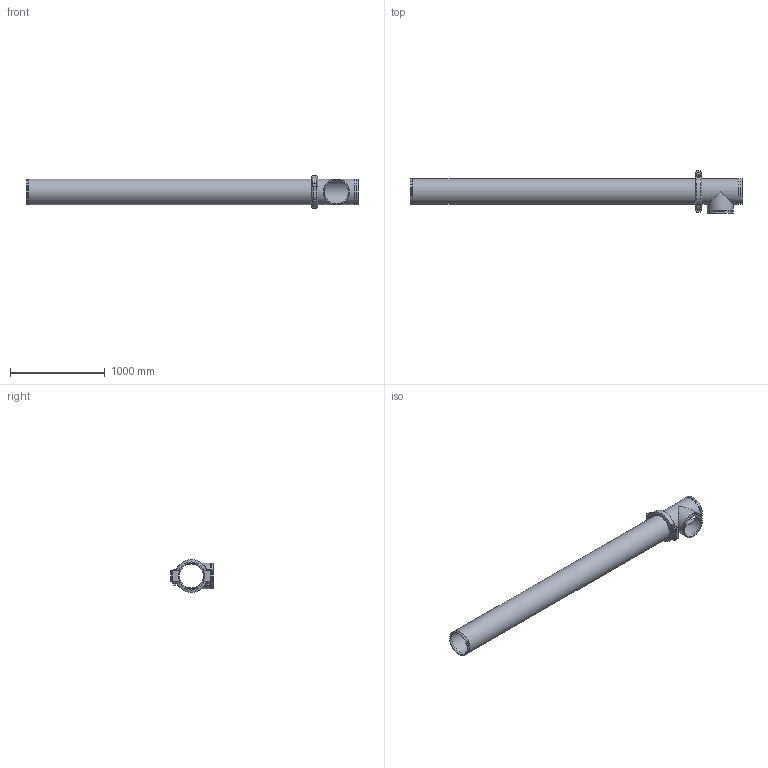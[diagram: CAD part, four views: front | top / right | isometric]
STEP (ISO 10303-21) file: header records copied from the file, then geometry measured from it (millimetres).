
FILE_DESCRIPTION(/* description */ ('VIC LONG RUN FITTING No R25 (OGS)','CAx-IF Rec.Pracs.---Representation and Presentation of Product Manufacturing Information (PMI)---4.0---2014-10-13'),/* implementation_level */ '2;1');
FILE_NAME(/* name */ 'C:\Users\Vjadhav\AppData\Roaming\Autodesk\ApplicationPlugins\Back Up\Victaulic_IPS_Long Run Fittings_No R25 (OGS)\Victaulic_IPS_Long Run Fittings_No R25 (OGS)_10 (250).stp',/* time_stamp */ '2020-10-14T10:39:11+05:00',/* author */ ('Vjadhav'),/* organization */ ('Victaulic'),/* preprocessor_version */ 'ST-DEVELOPER v17.2',/* originating_system */ 'Autodesk Inventor 2019',/* authorisation */ '');
FILE_SCHEMA (('AP242_MANAGED_MODEL_BASED_3D_ENGINEERING_MIM_LF { 1 0 10303 442 1 1 4 }'));
Length unit declared in the file: inch
Products named in the file (4): R25-10.0; 020-10.0; Pipe_R13-10.0; 077-10.0
Assembly tree (3 placements, depth 2):
  R25-10.0
    020-10.0
    Pipe_R13-10.0
    077-10.0
Bounding box: 3508.5 x 446.15 x 344.9 mm (x, y, z)
Volume: 30203678.1 mm3; surface area: 6247627.1 mm2
Topology: 3 solids, 5 shells, 92 faces, 223 edges, 160 vertices
Faces by surface type: plane 51, cylinder 35, cone 4, bspline 2
Full cylindrical faces by diameter (mm): 25.4 x4, 27.432 x2, 254.508 x3, 264.16 x1, 268.275 x5, 273.05 x10
Entity records: 3250 total; most frequent: CARTESIAN_POINT 706, DIRECTION 507, ORIENTED_EDGE 446, EDGE_CURVE 223, AXIS2_PLACEMENT_3D 207, VERTEX_POINT 160, EDGE_LOOP 123, CIRCLE 104
